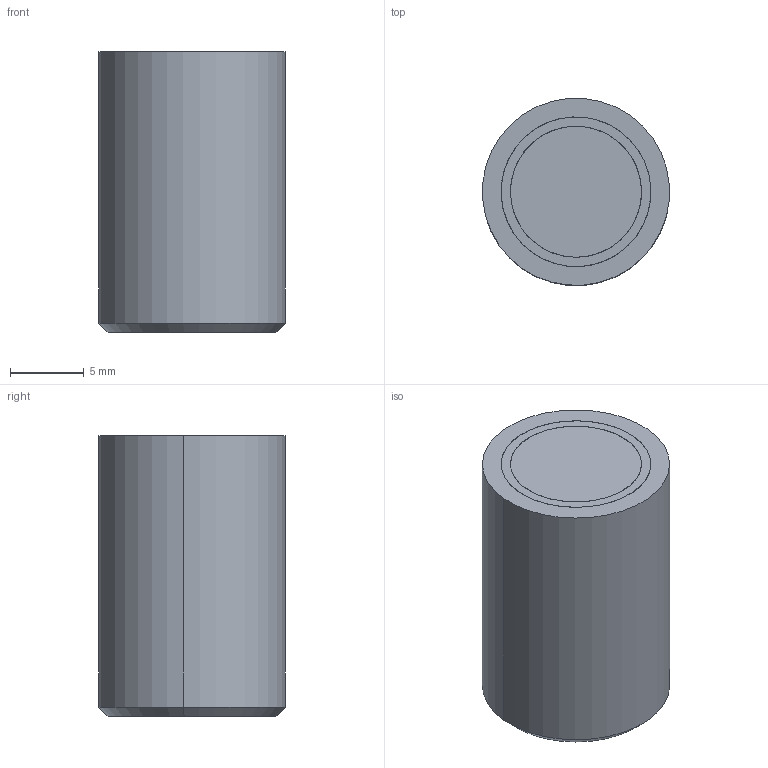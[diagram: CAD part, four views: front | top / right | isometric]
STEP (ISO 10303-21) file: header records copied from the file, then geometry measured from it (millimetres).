
FILE_DESCRIPTION (( 'STEP AP203' ), '1' );
FILE_NAME ('A502.STEP', '2018-08-17T18:51:25', ( '' ), ( '' ), 'SwSTEP 2.0', 'SolidWorks 2015', '' );
FILE_SCHEMA (( 'CONFIG_CONTROL_DESIGN' ));
Length unit declared in the file: inch
Products named in the file (1): A502
Bounding box: 12.66 x 12.66 x 19.05 mm (x, y, z)
Volume: 2339.2 mm3; surface area: 3173.3 mm2
Topology: 3 solids, 3 shells, 25 faces, 50 edges, 31 vertices
Faces by surface type: cylinder 14, plane 7, cone 4
Entity records: 731 total; most frequent: DIRECTION 130, CARTESIAN_POINT 105, ORIENTED_EDGE 96, AXIS2_PLACEMENT_3D 56, EDGE_CURVE 48, VERTEX_POINT 31, EDGE_LOOP 31, CIRCLE 30
